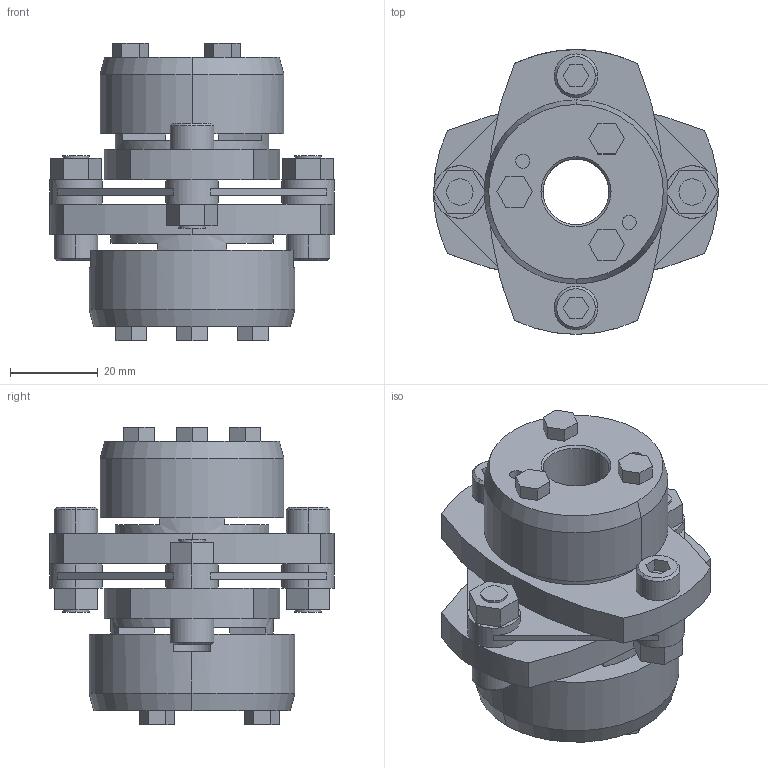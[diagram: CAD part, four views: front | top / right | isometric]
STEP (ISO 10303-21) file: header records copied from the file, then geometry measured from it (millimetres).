
FILE_DESCRIPTION((''),'2;1');
FILE_NAME('LCS-65T7-15×20.stp','2011-08-23T13:13:42',(''),(''),'AutoCAD STEP 2000i','AutoCAD 2000i',', , ');
FILE_SCHEMA(('CONFIG_CONTROL_DESIGN'));
Length unit declared in the file: millimetre
Products named in the file (7): LCS-65T7-15×19; 忣兜1; LC65T7-T019; LC65T7-T017; LC65T7-T015-1; LC65T7-T015; LCS65-ITA
Assembly tree (6 placements, depth 2):
  LCS-65T7-15×19
    忣兜1
    LC65T7-T019
    LC65T7-T017
    LC65T7-T015-1
    LC65T7-T015
    LCS65-ITA
Bounding box: 65 x 65 x 67.9 mm (x, y, z)
Volume: 85652.9 mm3; surface area: 29138.4 mm2
Topology: 1 solids, 1 shells, 224 faces, 575 edges, 375 vertices
Faces by surface type: plane 134, cylinder 70, cone 20
Entity records: 7037 total; most frequent: DIRECTION 1240, CARTESIAN_POINT 1181, ORIENTED_EDGE 1150, EDGE_CURVE 575, AXIS2_PLACEMENT_3D 434, VERTEX_POINT 375, VECTOR 372, LINE 372
